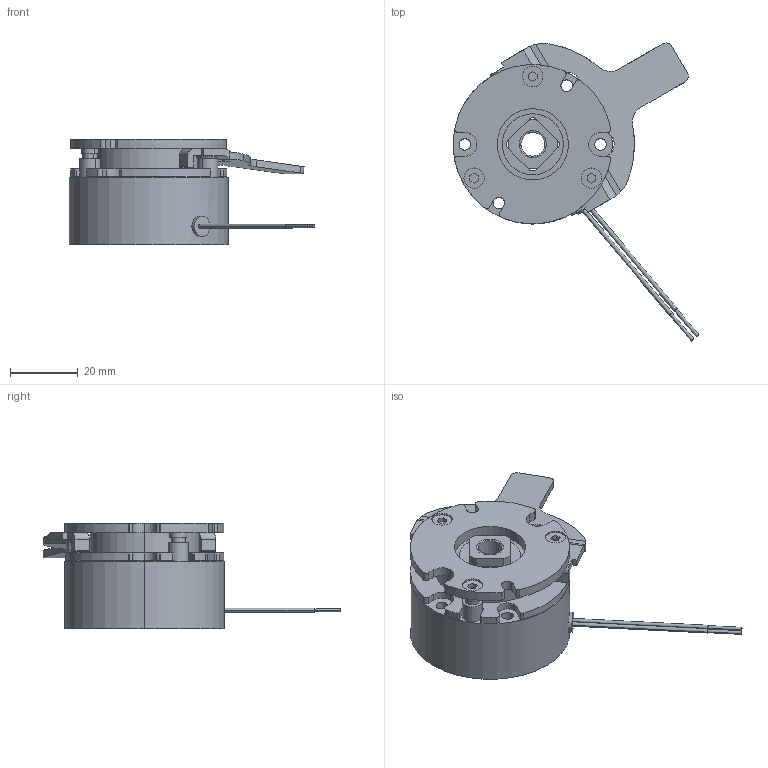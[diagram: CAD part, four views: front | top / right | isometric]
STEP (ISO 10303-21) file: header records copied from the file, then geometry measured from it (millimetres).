
FILE_DESCRIPTION (( 'STEP AP214' ), '1' );
FILE_NAME ('BXW-02-12S-7.STEP', '2018-10-30T08:02:57', ( 'MIKI' ), ( '' ), 'SwSTEP 2.0', 'SolidWorks 2012', '' );
FILE_SCHEMA (( 'AUTOMOTIVE_DESIGN' ));
Length unit declared in the file: millimetre
Products named in the file (1): BXW-02-12S-7
Bounding box: 72.5 x 87.9 x 31.2 mm (x, y, z)
Volume: 43662.4 mm3; surface area: 18996.3 mm2
Topology: 4 solids, 4 shells, 331 faces, 873 edges, 568 vertices
Faces by surface type: cylinder 160, plane 147, cone 16, torus 8
Entity records: 14213 total; most frequent: CARTESIAN_POINT 2095, DIRECTION 1809, ORIENTED_EDGE 1738, EDGE_CURVE 869, AXIS2_PLACEMENT_3D 656, VERTEX_POINT 568, LINE 497, VECTOR 497
